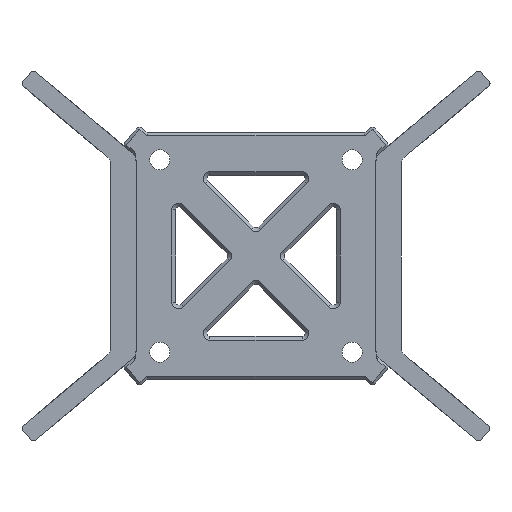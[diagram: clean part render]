
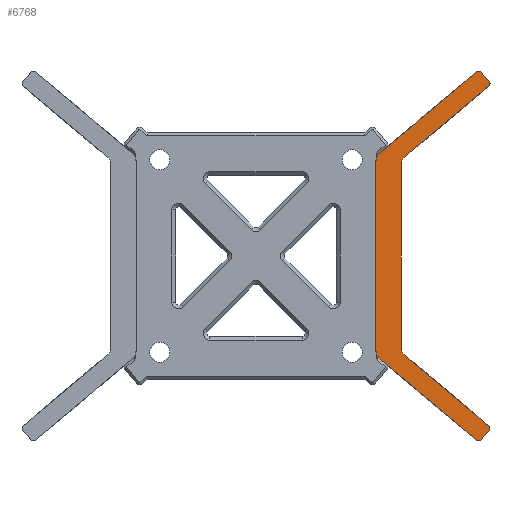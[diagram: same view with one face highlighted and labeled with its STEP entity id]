
A CAD part, front view. The second image highlights one B-rep face of the part: STEP entity #6768.
In plain terms, the highlighted planar face has unit normal (0, -1, 0).
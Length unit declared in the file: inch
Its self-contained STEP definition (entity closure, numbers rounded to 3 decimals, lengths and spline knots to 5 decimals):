
#544=FACE_OUTER_BOUND('',#948,.T.);
#948=EDGE_LOOP('',(#4636,#4637,#4638,#4639,#4640,#4641,#4642,#4643,#4644,
#4645,#4646,#4647,#4648,#4649,#4650,#4651));
#1367=CIRCLE('',#7168,0.07874);
#1369=CIRCLE('',#7172,0.07874);
#1387=CIRCLE('',#7199,0.07874);
#1388=CIRCLE('',#7202,0.01969);
#1389=CIRCLE('',#7205,0.01969);
#1392=CIRCLE('',#7212,0.01969);
#1393=CIRCLE('',#7215,0.01969);
#1394=CIRCLE('',#7218,0.07874);
#1535=LINE('',#9171,#2168);
#1554=LINE('',#9239,#2187);
#1564=LINE('',#9276,#2197);
#1567=LINE('',#9284,#2200);
#1572=LINE('',#9295,#2205);
#1578=LINE('',#9312,#2211);
#1581=LINE('',#9320,#2214);
#1584=LINE('',#9327,#2217);
#2168=VECTOR('',#7630,0.3937);
#2187=VECTOR('',#7703,0.3937);
#2197=VECTOR('',#7735,0.3937);
#2200=VECTOR('',#7744,0.3937);
#2205=VECTOR('',#7755,0.3937);
#2211=VECTOR('',#7775,0.3937);
#2214=VECTOR('',#7784,0.3937);
#2217=VECTOR('',#7793,0.3937);
#2805=VERTEX_POINT('',#9168);
#2806=VERTEX_POINT('',#9170);
#2813=VERTEX_POINT('',#9187);
#2816=VERTEX_POINT('',#9197);
#2817=VERTEX_POINT('',#9199);
#2842=VERTEX_POINT('',#9269);
#2843=VERTEX_POINT('',#9271);
#2844=VERTEX_POINT('',#9275);
#2845=VERTEX_POINT('',#9279);
#2846=VERTEX_POINT('',#9283);
#2847=VERTEX_POINT('',#9287);
#2852=VERTEX_POINT('',#9307);
#2853=VERTEX_POINT('',#9311);
#2854=VERTEX_POINT('',#9315);
#2855=VERTEX_POINT('',#9319);
#2856=VERTEX_POINT('',#9323);
#3459=EDGE_CURVE('',#2806,#2805,#1535,.T.);
#3469=EDGE_CURVE('',#2805,#2813,#1367,.T.);
#3474=EDGE_CURVE('',#2817,#2816,#1369,.T.);
#3495=EDGE_CURVE('',#2813,#2817,#1554,.T.);
#3511=EDGE_CURVE('',#2843,#2842,#1387,.T.);
#3513=EDGE_CURVE('',#2844,#2843,#1564,.T.);
#3515=EDGE_CURVE('',#2845,#2844,#1388,.T.);
#3517=EDGE_CURVE('',#2846,#2845,#1567,.T.);
#3519=EDGE_CURVE('',#2847,#2846,#1389,.T.);
#3523=EDGE_CURVE('',#2816,#2847,#1572,.T.);
#3530=EDGE_CURVE('',#2852,#2806,#1392,.T.);
#3532=EDGE_CURVE('',#2853,#2852,#1578,.T.);
#3534=EDGE_CURVE('',#2854,#2853,#1393,.T.);
#3536=EDGE_CURVE('',#2855,#2854,#1581,.T.);
#3538=EDGE_CURVE('',#2856,#2855,#1394,.T.);
#3540=EDGE_CURVE('',#2842,#2856,#1584,.T.);
#4636=ORIENTED_EDGE('',*,*,#3540,.T.);
#4637=ORIENTED_EDGE('',*,*,#3538,.T.);
#4638=ORIENTED_EDGE('',*,*,#3536,.T.);
#4639=ORIENTED_EDGE('',*,*,#3534,.T.);
#4640=ORIENTED_EDGE('',*,*,#3532,.T.);
#4641=ORIENTED_EDGE('',*,*,#3530,.T.);
#4642=ORIENTED_EDGE('',*,*,#3459,.T.);
#4643=ORIENTED_EDGE('',*,*,#3469,.T.);
#4644=ORIENTED_EDGE('',*,*,#3495,.T.);
#4645=ORIENTED_EDGE('',*,*,#3474,.T.);
#4646=ORIENTED_EDGE('',*,*,#3523,.T.);
#4647=ORIENTED_EDGE('',*,*,#3519,.T.);
#4648=ORIENTED_EDGE('',*,*,#3517,.T.);
#4649=ORIENTED_EDGE('',*,*,#3515,.T.);
#4650=ORIENTED_EDGE('',*,*,#3513,.T.);
#4651=ORIENTED_EDGE('',*,*,#3511,.T.);
#6572=PLANE('',#7220);
#6768=ADVANCED_FACE('',(#544),#6572,.T.);
#7168=AXIS2_PLACEMENT_3D('',#9189,#7646,#7647);
#7172=AXIS2_PLACEMENT_3D('',#9200,#7657,#7658);
#7199=AXIS2_PLACEMENT_3D('',#9272,#7730,#7731);
#7202=AXIS2_PLACEMENT_3D('',#9280,#7739,#7740);
#7205=AXIS2_PLACEMENT_3D('',#9288,#7748,#7749);
#7212=AXIS2_PLACEMENT_3D('',#9308,#7770,#7771);
#7215=AXIS2_PLACEMENT_3D('',#9316,#7779,#7780);
#7218=AXIS2_PLACEMENT_3D('',#9324,#7788,#7789);
#7220=AXIS2_PLACEMENT_3D('',#9328,#7794,#7795);
#7630=DIRECTION('',(-0.766,0.,-0.643));
#7646=DIRECTION('center_axis',(0.,-1.,0.));
#7647=DIRECTION('ref_axis',(0.643,0.,-0.766));
#7657=DIRECTION('center_axis',(0.,-1.,0.));
#7658=DIRECTION('ref_axis',(1.,0.,0.));
#7703=DIRECTION('',(0.,0.,-1.));
#7730=DIRECTION('center_axis',(0.,1.,0.));
#7731=DIRECTION('ref_axis',(-1.,0.,0.));
#7735=DIRECTION('',(-0.766,0.,0.643));
#7739=DIRECTION('center_axis',(0.,-1.,0.));
#7740=DIRECTION('ref_axis',(-0.766,0.,0.643));
#7744=DIRECTION('',(0.643,0.,0.766));
#7748=DIRECTION('center_axis',(0.,-1.,0.));
#7749=DIRECTION('ref_axis',(0.643,0.,0.766));
#7755=DIRECTION('',(0.766,0.,-0.643));
#7770=DIRECTION('center_axis',(0.,-1.,0.));
#7771=DIRECTION('ref_axis',(-0.766,0.,-0.643));
#7775=DIRECTION('',(-0.643,0.,0.766));
#7779=DIRECTION('center_axis',(0.,-1.,0.));
#7780=DIRECTION('ref_axis',(-0.643,0.,0.766));
#7784=DIRECTION('',(0.766,0.,0.643));
#7788=DIRECTION('center_axis',(0.,1.,0.));
#7789=DIRECTION('ref_axis',(-0.643,0.,0.766));
#7793=DIRECTION('',(0.,0.,1.));
#7794=DIRECTION('center_axis',(0.,-1.,0.));
#7795=DIRECTION('ref_axis',(0.,0.,1.));
#9168=CARTESIAN_POINT('',(0.77616,-0.19685,0.64509));
#9170=CARTESIAN_POINT('',(1.37743,-0.19685,1.14962));
#9171=CARTESIAN_POINT('',(0.77616,-0.19685,0.64509));
#9187=CARTESIAN_POINT('',(0.74803,-0.19685,0.58477));
#9189=CARTESIAN_POINT('Origin',(0.82677,-0.19685,0.58477));
#9197=CARTESIAN_POINT('',(0.77616,-0.19685,-0.64509));
#9199=CARTESIAN_POINT('',(0.74803,-0.19685,-0.58477));
#9200=CARTESIAN_POINT('Origin',(0.82677,-0.19685,-0.58477));
#9239=CARTESIAN_POINT('',(0.74803,-0.19685,-0.58477));
#9269=CARTESIAN_POINT('',(0.90551,-0.19685,-0.56273));
#9271=CARTESIAN_POINT('',(0.93364,-0.19685,-0.62305));
#9272=CARTESIAN_POINT('Origin',(0.98425,-0.19685,-0.56273));
#9275=CARTESIAN_POINT('',(1.45335,-0.19685,-1.05914));
#9276=CARTESIAN_POINT('',(0.93364,-0.19685,-0.62305));
#9279=CARTESIAN_POINT('',(1.45578,-0.19685,-1.08687));
#9280=CARTESIAN_POINT('Origin',(1.4407,-0.19685,-1.07422));
#9283=CARTESIAN_POINT('',(1.40516,-0.19685,-1.14719));
#9284=CARTESIAN_POINT('',(1.45578,-0.19685,-1.08687));
#9287=CARTESIAN_POINT('',(1.37743,-0.19685,-1.14962));
#9288=CARTESIAN_POINT('Origin',(1.39008,-0.19685,-1.13454));
#9295=CARTESIAN_POINT('',(1.37743,-0.19685,-1.14962));
#9307=CARTESIAN_POINT('',(1.40516,-0.19685,1.14719));
#9308=CARTESIAN_POINT('Origin',(1.39008,-0.19685,1.13454));
#9311=CARTESIAN_POINT('',(1.45578,-0.19685,1.08687));
#9312=CARTESIAN_POINT('',(1.40516,-0.19685,1.14719));
#9315=CARTESIAN_POINT('',(1.45335,-0.19685,1.05914));
#9316=CARTESIAN_POINT('Origin',(1.4407,-0.19685,1.07422));
#9319=CARTESIAN_POINT('',(0.93364,-0.19685,0.62305));
#9320=CARTESIAN_POINT('',(1.45335,-0.19685,1.05914));
#9323=CARTESIAN_POINT('',(0.90551,-0.19685,0.56273));
#9324=CARTESIAN_POINT('Origin',(0.98425,-0.19685,0.56273));
#9327=CARTESIAN_POINT('',(0.90551,-0.19685,0.56273));
#9328=CARTESIAN_POINT('Origin',(1.00978,-0.19685,0.));
